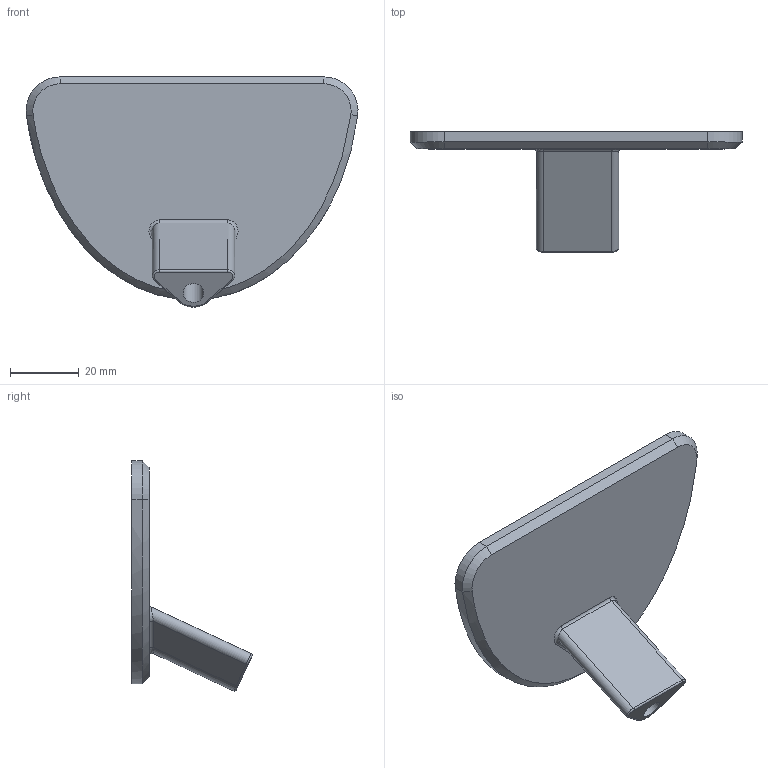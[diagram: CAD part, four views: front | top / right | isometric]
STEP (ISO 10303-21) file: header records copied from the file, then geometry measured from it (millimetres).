
FILE_DESCRIPTION(/* description */ (''),/* implementation_level */ '2;1');
FILE_NAME(/* name */ '',/* time_stamp */ '2026-04-10T14:29:24+02:00',/* author */ (''),/* organization */ (''),/* preprocessor_version */ 'ST-DEVELOPER v20.1',/* originating_system */ 'Autodesk Translation Framework v14.24.0.0',/* authorisation */ '');
FILE_SCHEMA (('AUTOMOTIVE_DESIGN { 1 0 10303 214 3 1 1 }'));
Length unit declared in the file: millimetre
Products named in the file (1): (Niezapisany)
Bounding box: 96.78 x 35.06 x 67.12 mm (x, y, z)
Volume: 29226.2 mm3; surface area: 13352.9 mm2
Topology: 1 solids, 1 shells, 32 faces, 68 edges, 40 vertices
Faces by surface type: cylinder 13, plane 9, bspline 5, torus 3, cone 2
Full cylindrical faces by diameter (mm): 6 x1, 10 x1
Entity records: 1059 total; most frequent: CARTESIAN_POINT 324, DIRECTION 157, ORIENTED_EDGE 136, EDGE_CURVE 68, AXIS2_PLACEMENT_3D 63, VERTEX_POINT 40, EDGE_LOOP 36, FACE_OUTER_BOUND 32
